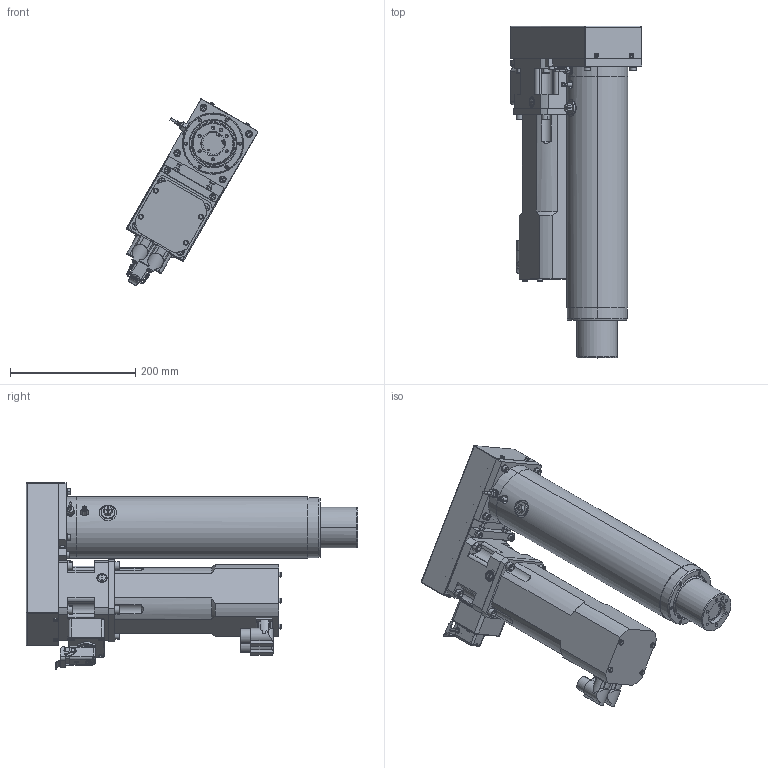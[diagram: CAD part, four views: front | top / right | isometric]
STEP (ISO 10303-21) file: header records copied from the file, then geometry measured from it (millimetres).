
FILE_DESCRIPTION (( 'STEP AP203' ), '1' );
FILE_NAME ('LN5P0100-020-030SG.STEP', '2018-07-05T10:21:27', ( '' ), ( '' ), 'SwSTEP 2.0', 'SolidWorks 2016', '' );
FILE_SCHEMA (( 'CONFIG_CONTROL_DESIGN' ));
Length unit declared in the file: millimetre
Products named in the file (1): LN5P0100-020-030SG
Bounding box: 210.88 x 531 x 298.29 mm (x, y, z)
Volume: 5945474.9 mm3; surface area: 857070.3 mm2
Topology: 49 solids, 49 shells, 2617 faces, 6303 edges, 3876 vertices
Faces by surface type: plane 1140, cylinder 847, cone 363, bspline 209, torus 56, sphere 2
Entity records: 100894 total; most frequent: CARTESIAN_POINT 41421, ORIENTED_EDGE 12274, DIRECTION 12084, EDGE_CURVE 6137, AXIS2_PLACEMENT_3D 4499, VERTEX_POINT 3876, LINE 3086, VECTOR 3086
